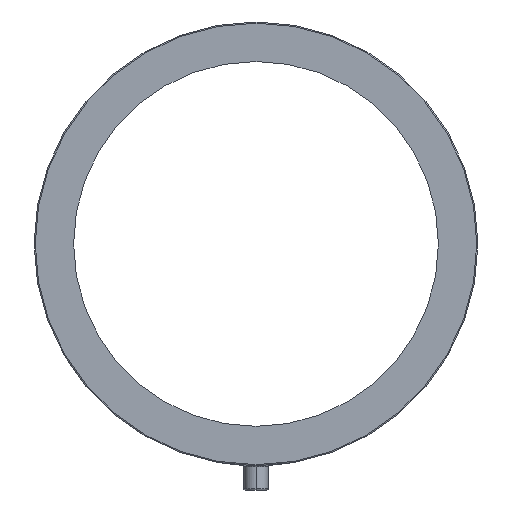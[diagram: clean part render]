
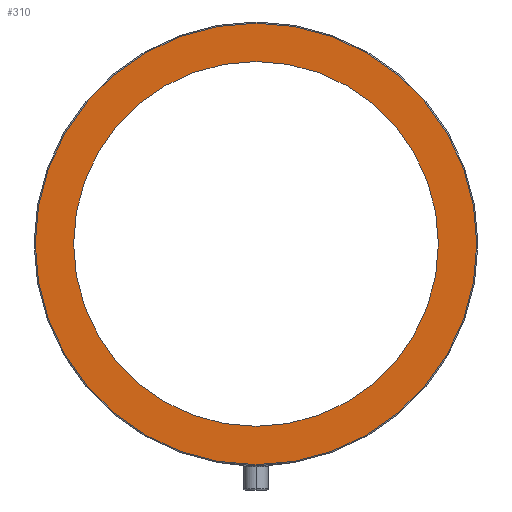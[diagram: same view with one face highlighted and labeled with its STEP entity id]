
A CAD part, left-side view. The second image highlights one B-rep face of the part: STEP entity #310.
In plain terms, the highlighted planar face has unit normal (-1, 0, 0).
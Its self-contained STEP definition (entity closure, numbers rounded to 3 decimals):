
#53 = CARTESIAN_POINT ( 'NONE',  ( 0., 0., 0. ) ) ;
#75 = CARTESIAN_POINT ( 'NONE',  ( 0., 0., -192. ) ) ;
#168 = CIRCLE ( 'NONE', #847, 158.65 ) ;
#298 = CARTESIAN_POINT ( 'NONE',  ( 0., 0., 0. ) ) ;
#310 = ADVANCED_FACE ( 'NONE', ( #2178, #1572 ), #1365, .T. ) ;
#374 = DIRECTION ( 'NONE',  ( -1., 0., 0. ) ) ;
#404 = CARTESIAN_POINT ( 'NONE',  ( 0., 0., 0. ) ) ;
#433 = VERTEX_POINT ( 'NONE', #902 ) ;
#442 = CARTESIAN_POINT ( 'NONE',  ( 0., 0., 0. ) ) ;
#504 = VERTEX_POINT ( 'NONE', #75 ) ;
#511 = CARTESIAN_POINT ( 'NONE',  ( 0., 0., -158.65 ) ) ;
#586 = CARTESIAN_POINT ( 'NONE',  ( 0., 158.65, 0. ) ) ;
#688 = DIRECTION ( 'NONE',  ( 0., 0., -1. ) ) ;
#847 = AXIS2_PLACEMENT_3D ( 'NONE', #298, #1072, #688 ) ;
#883 = DIRECTION ( 'NONE',  ( 1., 0., 0. ) ) ;
#902 = CARTESIAN_POINT ( 'NONE',  ( 0., 0., 158.65 ) ) ;
#1007 = EDGE_CURVE ( 'NONE', #1347, #504, #1317, .T. ) ;
#1067 = DIRECTION ( 'NONE',  ( 1., 0., 0. ) ) ;
#1072 = DIRECTION ( 'NONE',  ( 1., 0., 0. ) ) ;
#1082 = ORIENTED_EDGE ( 'NONE', *, *, #1523, .T. ) ;
#1108 = ORIENTED_EDGE ( 'NONE', *, *, #2011, .T. ) ;
#1131 = CIRCLE ( 'NONE', #1591, 158.65 ) ;
#1136 = CIRCLE ( 'NONE', #1215, 192. ) ;
#1184 = ORIENTED_EDGE ( 'NONE', *, *, #1784, .F. ) ;
#1215 = AXIS2_PLACEMENT_3D ( 'NONE', #404, #2190, #2383 ) ;
#1239 = DIRECTION ( 'NONE',  ( 0., 0., -1. ) ) ;
#1317 = CIRCLE ( 'NONE', #2059, 192. ) ;
#1347 = VERTEX_POINT ( 'NONE', #1514 ) ;
#1365 = PLANE ( 'NONE',  #1694 ) ;
#1446 = EDGE_LOOP ( 'NONE', ( #1082, #1108 ) ) ;
#1514 = CARTESIAN_POINT ( 'NONE',  ( 0., 0., 192. ) ) ;
#1523 = EDGE_CURVE ( 'NONE', #2574, #433, #1131, .T. ) ;
#1572 = FACE_OUTER_BOUND ( 'NONE', #1699, .T. ) ;
#1591 = AXIS2_PLACEMENT_3D ( 'NONE', #442, #1067, #1239 ) ;
#1666 = DIRECTION ( 'NONE',  ( 0., 0., -1. ) ) ;
#1694 = AXIS2_PLACEMENT_3D ( 'NONE', #586, #374, #2357 ) ;
#1699 = EDGE_LOOP ( 'NONE', ( #1184, #2519 ) ) ;
#1784 = EDGE_CURVE ( 'NONE', #504, #1347, #1136, .T. ) ;
#2011 = EDGE_CURVE ( 'NONE', #433, #2574, #168, .T. ) ;
#2059 = AXIS2_PLACEMENT_3D ( 'NONE', #53, #883, #1666 ) ;
#2178 = FACE_BOUND ( 'NONE', #1446, .T. ) ;
#2190 = DIRECTION ( 'NONE',  ( 1., 0., 0. ) ) ;
#2357 = DIRECTION ( 'NONE',  ( 0., 0., 1. ) ) ;
#2383 = DIRECTION ( 'NONE',  ( 0., 0., -1. ) ) ;
#2519 = ORIENTED_EDGE ( 'NONE', *, *, #1007, .F. ) ;
#2574 = VERTEX_POINT ( 'NONE', #511 ) ;
